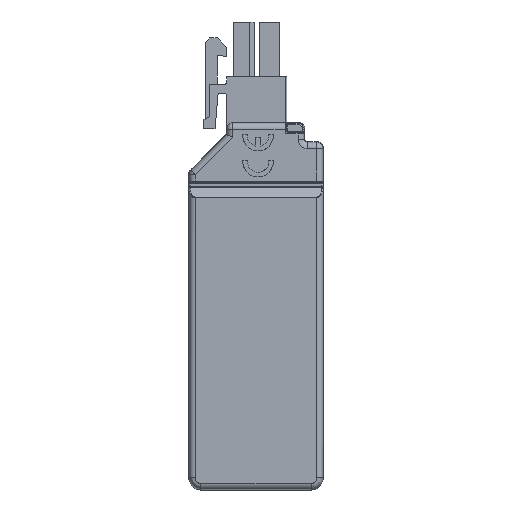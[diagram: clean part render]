
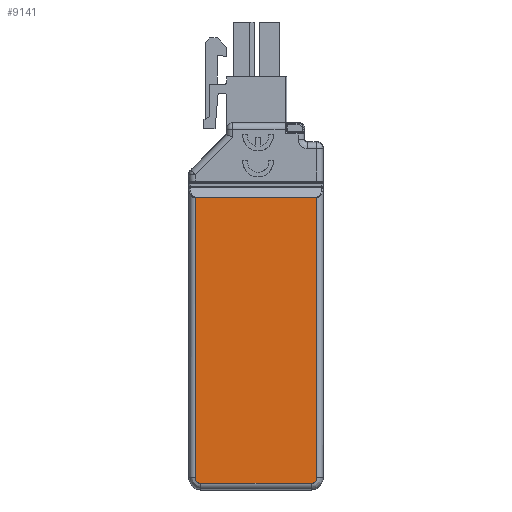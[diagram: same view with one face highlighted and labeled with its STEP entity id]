
A CAD part, front view. The second image highlights one B-rep face of the part: STEP entity #9141.
In plain terms, the highlighted planar face has unit normal (0, -1, 0).
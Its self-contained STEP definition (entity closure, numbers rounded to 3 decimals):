
#1907=DIRECTION('',(0.,0.,1.));
#1908=VECTOR('',#1907,45.714);
#1909=CARTESIAN_POINT('',(9.918,0.,-58.));
#1910=LINE('',#1909,#1908);
#1926=CARTESIAN_POINT('',(9.,0.,-58.));
#1927=DIRECTION('',(0.,1.,0.));
#1928=DIRECTION('',(1.,0.,0.));
#1929=AXIS2_PLACEMENT_3D('',#1926,#1927,#1928);
#1931=CARTESIAN_POINT('',(-9.,0.,-58.));
#1932=DIRECTION('',(0.,1.,0.));
#1933=DIRECTION('',(0.,0.,-1.));
#1934=AXIS2_PLACEMENT_3D('',#1931,#1932,#1933);
#1936=DIRECTION('',(-1.,0.,0.));
#1937=VECTOR('',#1936,19.836);
#1938=CARTESIAN_POINT('',(9.918,0.,-12.286));
#1939=LINE('',#1938,#1937);
#1944=CARTESIAN_POINT('',(-9.918,0.,
-12.286));
#1972=DIRECTION('',(0.,0.,-1.));
#1973=VECTOR('',#1972,45.714);
#1974=CARTESIAN_POINT('',(-9.918,0.,
-12.286));
#1975=LINE('',#1974,#1973);
#1995=DIRECTION('',(1.,0.,0.));
#1996=VECTOR('',#1995,18.);
#1997=CARTESIAN_POINT('',(-9.,0.,
-58.918));
#1998=LINE('',#1997,#1996);
#5383=VERTEX_POINT('',#1944);
#5385=CARTESIAN_POINT('',(-9.918,0.,-58.));
#5386=VERTEX_POINT('',#5385);
#5420=CARTESIAN_POINT('',(9.918,0.,-12.286));
#5421=VERTEX_POINT('',#5420);
#5422=CARTESIAN_POINT('',(9.918,0.,-58.));
#5423=VERTEX_POINT('',#5422);
#5424=CARTESIAN_POINT('',(9.,0.,
-58.918));
#5425=VERTEX_POINT('',#5424);
#5426=CARTESIAN_POINT('',(-9.,0.,
-58.918));
#5427=VERTEX_POINT('',#5426);
#9124=CARTESIAN_POINT('',(0.,0.,0.));
#9125=DIRECTION('',(0.,1.,0.));
#9126=DIRECTION('',(1.,0.,0.));
#9127=AXIS2_PLACEMENT_3D('',#9124,#9125,#9126);
#9128=PLANE('',#9127);
#9130=ORIENTED_EDGE('',*,*,#9129,.F.);
#9131=ORIENTED_EDGE('',*,*,#9093,.F.);
#9132=ORIENTED_EDGE('',*,*,#9115,.T.);
#9134=ORIENTED_EDGE('',*,*,#9133,.F.);
#9136=ORIENTED_EDGE('',*,*,#9135,.T.);
#9138=ORIENTED_EDGE('',*,*,#9137,.F.);
#9139=EDGE_LOOP('',(#9130,#9131,#9132,#9134,#9136,#9138));
#9140=FACE_OUTER_BOUND('',#9139,.F.);
#1930=CIRCLE('',#1929,0.918);
#1935=CIRCLE('',#1934,0.918);
#9093=EDGE_CURVE('',#5423,#5421,#1910,.T.);
#9115=EDGE_CURVE('',#5423,#5425,#1930,.T.);
#9129=EDGE_CURVE('',#5421,#5383,#1939,.T.);
#9133=EDGE_CURVE('',#5427,#5425,#1998,.T.);
#9135=EDGE_CURVE('',#5427,#5386,#1935,.T.);
#9137=EDGE_CURVE('',#5383,#5386,#1975,.T.);
#9141=ADVANCED_FACE('',(#9140),#9128,.F.);
